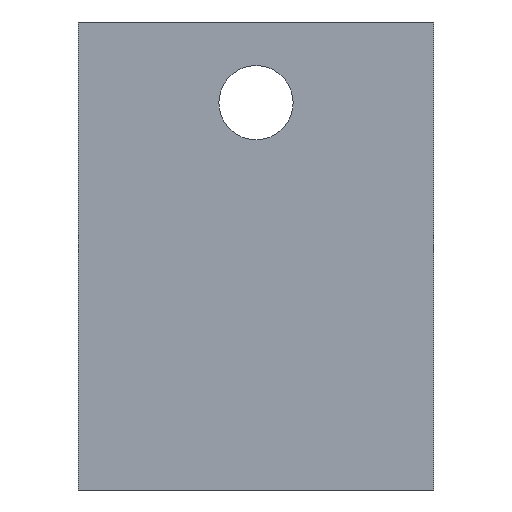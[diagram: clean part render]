
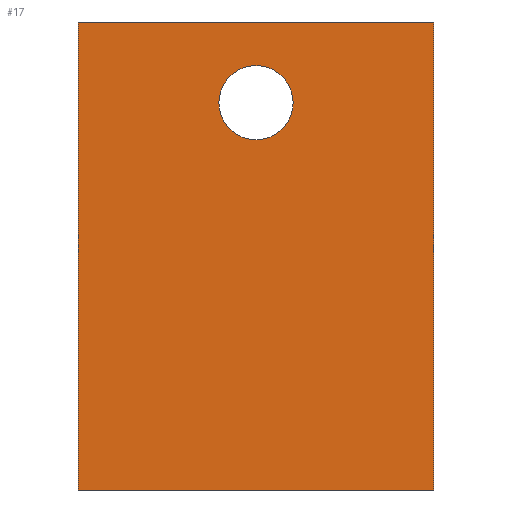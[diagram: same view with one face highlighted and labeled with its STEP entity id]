
A CAD part, left-side view. The second image highlights one B-rep face of the part: STEP entity #17.
In plain terms, the highlighted planar face has unit normal (-1, 0, 0).
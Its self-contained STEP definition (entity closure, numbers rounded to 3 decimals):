
#17 = ADVANCED_FACE('',(#18,#137),#32,.F.);
#18 = FACE_BOUND('',#19,.F.);
#19 = EDGE_LOOP('',(#20,#55,#83,#111));
#20 = ORIENTED_EDGE('',*,*,#21,.F.);
#21 = EDGE_CURVE('',#22,#24,#26,.T.);
#22 = VERTEX_POINT('',#23);
#23 = CARTESIAN_POINT('',(-6.,23.2,-142.));
#24 = VERTEX_POINT('',#25);
#25 = CARTESIAN_POINT('',(-6.,23.2,-113.));
#26 = SURFACE_CURVE('',#27,(#31,#43),.PCURVE_S1.);
#27 = LINE('',#28,#29);
#28 = CARTESIAN_POINT('',(-6.,23.2,-142.));
#29 = VECTOR('',#30,1.);
#30 = DIRECTION('',(0.,0.,1.));
#31 = PCURVE('',#32,#37);
#32 = PLANE('',#33);
#33 = AXIS2_PLACEMENT_3D('',#34,#35,#36);
#34 = CARTESIAN_POINT('',(-6.,23.2,-142.));
#35 = DIRECTION('',(1.,0.,0.));
#36 = DIRECTION('',(0.,0.,1.));
#37 = DEFINITIONAL_REPRESENTATION('',(#38),#42);
#38 = LINE('',#39,#40);
#39 = CARTESIAN_POINT('',(0.,0.));
#40 = VECTOR('',#41,1.);
#41 = DIRECTION('',(1.,0.));
#42 = ( GEOMETRIC_REPRESENTATION_CONTEXT(2) 
PARAMETRIC_REPRESENTATION_CONTEXT() REPRESENTATION_CONTEXT('2D SPACE',''
  ) );
#43 = PCURVE('',#44,#49);
#44 = PLANE('',#45);
#45 = AXIS2_PLACEMENT_3D('',#46,#47,#48);
#46 = CARTESIAN_POINT('',(-6.,23.2,-142.));
#47 = DIRECTION('',(0.,1.,0.));
#48 = DIRECTION('',(0.,0.,1.));
#49 = DEFINITIONAL_REPRESENTATION('',(#50),#54);
#50 = LINE('',#51,#52);
#51 = CARTESIAN_POINT('',(0.,0.));
#52 = VECTOR('',#53,1.);
#53 = DIRECTION('',(1.,0.));
#54 = ( GEOMETRIC_REPRESENTATION_CONTEXT(2) 
PARAMETRIC_REPRESENTATION_CONTEXT() REPRESENTATION_CONTEXT('2D SPACE',''
  ) );
#55 = ORIENTED_EDGE('',*,*,#56,.T.);
#56 = EDGE_CURVE('',#22,#57,#59,.T.);
#57 = VERTEX_POINT('',#58);
#58 = CARTESIAN_POINT('',(-6.,45.2,-142.));
#59 = SURFACE_CURVE('',#60,(#64,#71),.PCURVE_S1.);
#60 = LINE('',#61,#62);
#61 = CARTESIAN_POINT('',(-6.,23.2,-142.));
#62 = VECTOR('',#63,1.);
#63 = DIRECTION('',(0.,1.,0.));
#64 = PCURVE('',#32,#65);
#65 = DEFINITIONAL_REPRESENTATION('',(#66),#70);
#66 = LINE('',#67,#68);
#67 = CARTESIAN_POINT('',(0.,0.));
#68 = VECTOR('',#69,1.);
#69 = DIRECTION('',(0.,-1.));
#70 = ( GEOMETRIC_REPRESENTATION_CONTEXT(2) 
PARAMETRIC_REPRESENTATION_CONTEXT() REPRESENTATION_CONTEXT('2D SPACE',''
  ) );
#71 = PCURVE('',#72,#77);
#72 = PLANE('',#73);
#73 = AXIS2_PLACEMENT_3D('',#74,#75,#76);
#74 = CARTESIAN_POINT('',(-6.,23.2,-142.));
#75 = DIRECTION('',(0.,0.,1.));
#76 = DIRECTION('',(1.,0.,0.));
#77 = DEFINITIONAL_REPRESENTATION('',(#78),#82);
#78 = LINE('',#79,#80);
#79 = CARTESIAN_POINT('',(0.,0.));
#80 = VECTOR('',#81,1.);
#81 = DIRECTION('',(0.,1.));
#82 = ( GEOMETRIC_REPRESENTATION_CONTEXT(2) 
PARAMETRIC_REPRESENTATION_CONTEXT() REPRESENTATION_CONTEXT('2D SPACE',''
  ) );
#83 = ORIENTED_EDGE('',*,*,#84,.T.);
#84 = EDGE_CURVE('',#57,#85,#87,.T.);
#85 = VERTEX_POINT('',#86);
#86 = CARTESIAN_POINT('',(-6.,45.2,-113.));
#87 = SURFACE_CURVE('',#88,(#92,#99),.PCURVE_S1.);
#88 = LINE('',#89,#90);
#89 = CARTESIAN_POINT('',(-6.,45.2,-142.));
#90 = VECTOR('',#91,1.);
#91 = DIRECTION('',(0.,0.,1.));
#92 = PCURVE('',#32,#93);
#93 = DEFINITIONAL_REPRESENTATION('',(#94),#98);
#94 = LINE('',#95,#96);
#95 = CARTESIAN_POINT('',(0.,-22.));
#96 = VECTOR('',#97,1.);
#97 = DIRECTION('',(1.,0.));
#98 = ( GEOMETRIC_REPRESENTATION_CONTEXT(2) 
PARAMETRIC_REPRESENTATION_CONTEXT() REPRESENTATION_CONTEXT('2D SPACE',''
  ) );
#99 = PCURVE('',#100,#105);
#100 = PLANE('',#101);
#101 = AXIS2_PLACEMENT_3D('',#102,#103,#104);
#102 = CARTESIAN_POINT('',(-6.,45.2,-142.));
#103 = DIRECTION('',(0.,1.,0.));
#104 = DIRECTION('',(0.,0.,1.));
#105 = DEFINITIONAL_REPRESENTATION('',(#106),#110);
#106 = LINE('',#107,#108);
#107 = CARTESIAN_POINT('',(0.,0.));
#108 = VECTOR('',#109,1.);
#109 = DIRECTION('',(1.,0.));
#110 = ( GEOMETRIC_REPRESENTATION_CONTEXT(2) 
PARAMETRIC_REPRESENTATION_CONTEXT() REPRESENTATION_CONTEXT('2D SPACE',''
  ) );
#111 = ORIENTED_EDGE('',*,*,#112,.F.);
#112 = EDGE_CURVE('',#24,#85,#113,.T.);
#113 = SURFACE_CURVE('',#114,(#118,#125),.PCURVE_S1.);
#114 = LINE('',#115,#116);
#115 = CARTESIAN_POINT('',(-6.,23.2,-113.));
#116 = VECTOR('',#117,1.);
#117 = DIRECTION('',(0.,1.,0.));
#118 = PCURVE('',#32,#119);
#119 = DEFINITIONAL_REPRESENTATION('',(#120),#124);
#120 = LINE('',#121,#122);
#121 = CARTESIAN_POINT('',(29.,0.));
#122 = VECTOR('',#123,1.);
#123 = DIRECTION('',(0.,-1.));
#124 = ( GEOMETRIC_REPRESENTATION_CONTEXT(2) 
PARAMETRIC_REPRESENTATION_CONTEXT() REPRESENTATION_CONTEXT('2D SPACE',''
  ) );
#125 = PCURVE('',#126,#131);
#126 = PLANE('',#127);
#127 = AXIS2_PLACEMENT_3D('',#128,#129,#130);
#128 = CARTESIAN_POINT('',(-6.,23.2,-113.));
#129 = DIRECTION('',(0.,0.,1.));
#130 = DIRECTION('',(1.,0.,0.));
#131 = DEFINITIONAL_REPRESENTATION('',(#132),#136);
#132 = LINE('',#133,#134);
#133 = CARTESIAN_POINT('',(0.,0.));
#134 = VECTOR('',#135,1.);
#135 = DIRECTION('',(0.,1.));
#136 = ( GEOMETRIC_REPRESENTATION_CONTEXT(2) 
PARAMETRIC_REPRESENTATION_CONTEXT() REPRESENTATION_CONTEXT('2D SPACE',''
  ) );
#137 = FACE_BOUND('',#138,.F.);
#138 = EDGE_LOOP('',(#139));
#139 = ORIENTED_EDGE('',*,*,#140,.T.);
#140 = EDGE_CURVE('',#141,#141,#143,.T.);
#141 = VERTEX_POINT('',#142);
#142 = CARTESIAN_POINT('',(-6.,31.9,-118.));
#143 = SURFACE_CURVE('',#144,(#149,#160),.PCURVE_S1.);
#144 = CIRCLE('',#145,2.3);
#145 = AXIS2_PLACEMENT_3D('',#146,#147,#148);
#146 = CARTESIAN_POINT('',(-6.,34.2,-118.));
#147 = DIRECTION('',(-1.,-0.,0.));
#148 = DIRECTION('',(0.,-1.,0.));
#149 = PCURVE('',#32,#150);
#150 = DEFINITIONAL_REPRESENTATION('',(#151),#159);
#151 = ( BOUNDED_CURVE() B_SPLINE_CURVE(2,(#152,#153,#154,#155,#156,#157
,#158),.UNSPECIFIED.,.T.,.F.) B_SPLINE_CURVE_WITH_KNOTS((1,2,2,2,2,1),(
    -2.094,0.,2.094,4.189,6.283,
8.378),.UNSPECIFIED.) CURVE() GEOMETRIC_REPRESENTATION_ITEM() 
RATIONAL_B_SPLINE_CURVE((1.,0.5,1.,0.5,1.,0.5,1.)) REPRESENTATION_ITEM(
  '') );
#152 = CARTESIAN_POINT('',(24.,-8.7));
#153 = CARTESIAN_POINT('',(27.984,-8.7));
#154 = CARTESIAN_POINT('',(25.992,-12.15));
#155 = CARTESIAN_POINT('',(24.,-15.6));
#156 = CARTESIAN_POINT('',(22.008,-12.15));
#157 = CARTESIAN_POINT('',(20.016,-8.7));
#158 = CARTESIAN_POINT('',(24.,-8.7));
#159 = ( GEOMETRIC_REPRESENTATION_CONTEXT(2) 
PARAMETRIC_REPRESENTATION_CONTEXT() REPRESENTATION_CONTEXT('2D SPACE',''
  ) );
#160 = PCURVE('',#161,#166);
#161 = CYLINDRICAL_SURFACE('',#162,2.3);
#162 = AXIS2_PLACEMENT_3D('',#163,#164,#165);
#163 = CARTESIAN_POINT('',(-9.,34.2,-118.));
#164 = DIRECTION('',(-1.,-0.,-0.));
#165 = DIRECTION('',(0.,-1.,0.));
#166 = DEFINITIONAL_REPRESENTATION('',(#167),#171);
#167 = LINE('',#168,#169);
#168 = CARTESIAN_POINT('',(-6.283,-3.));
#169 = VECTOR('',#170,1.);
#170 = DIRECTION('',(1.,-0.));
#171 = ( GEOMETRIC_REPRESENTATION_CONTEXT(2) 
PARAMETRIC_REPRESENTATION_CONTEXT() REPRESENTATION_CONTEXT('2D SPACE',''
  ) );
